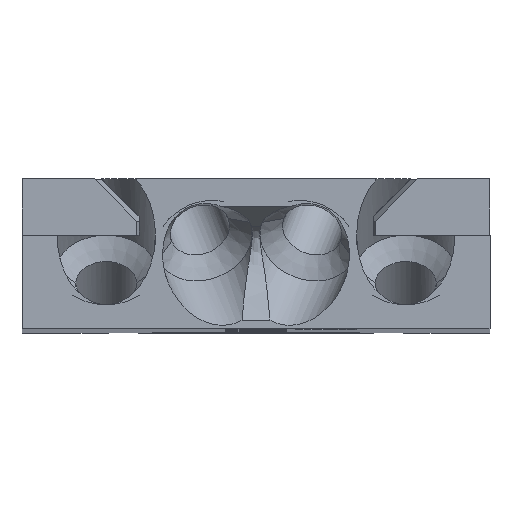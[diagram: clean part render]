
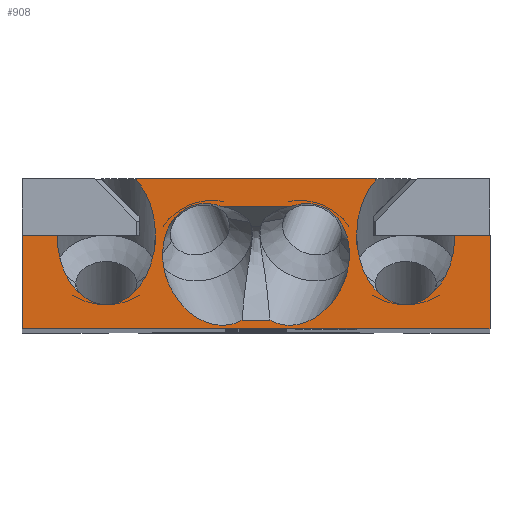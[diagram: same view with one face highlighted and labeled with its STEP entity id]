
A CAD part, top view. The second image highlights one B-rep face of the part: STEP entity #908.
In plain terms, the highlighted planar face has unit normal (0, 0, 1).
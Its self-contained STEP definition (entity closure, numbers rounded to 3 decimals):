
#908=ADVANCED_FACE('',(#1956,#1957),#1958,.T.);
#1956=FACE_OUTER_BOUND('',#3073,.T.);
#1957=FACE_BOUND('',#3074,.T.);
#1958=PLANE('',#3075);
#3073=EDGE_LOOP('',(#5756,#5757,#5758,#5759,#5760,#5761,#5762,#5763,#5764,#5765,#5766,#5767));
#3074=EDGE_LOOP('',(#5768,#5769,#5770,#5771,#5772,#5773));
#3075=AXIS2_PLACEMENT_3D('',#5774,#5775,#5776);
#5756=ORIENTED_EDGE('',*,*,#7435,.T.);
#5757=ORIENTED_EDGE('',*,*,#7179,.T.);
#5758=ORIENTED_EDGE('',*,*,#7025,.T.);
#5759=ORIENTED_EDGE('',*,*,#7408,.F.);
#5760=ORIENTED_EDGE('',*,*,#7384,.F.);
#5761=ORIENTED_EDGE('',*,*,#7371,.F.);
#5762=ORIENTED_EDGE('',*,*,#7402,.T.);
#5763=ORIENTED_EDGE('',*,*,#7418,.T.);
#5764=ORIENTED_EDGE('',*,*,#6936,.T.);
#5765=ORIENTED_EDGE('',*,*,#7182,.T.);
#5766=ORIENTED_EDGE('',*,*,#7436,.T.);
#5767=ORIENTED_EDGE('',*,*,#7437,.T.);
#5768=ORIENTED_EDGE('',*,*,#7438,.T.);
#5769=ORIENTED_EDGE('',*,*,#6931,.T.);
#5770=ORIENTED_EDGE('',*,*,#7439,.F.);
#5771=ORIENTED_EDGE('',*,*,#7440,.T.);
#5772=ORIENTED_EDGE('',*,*,#6925,.T.);
#5773=ORIENTED_EDGE('',*,*,#7441,.F.);
#5774=CARTESIAN_POINT('',(-25.0,0.,0.0));
#5775=DIRECTION('',(0.,0.,1.0));
#5776=DIRECTION('',(1.0,0.,0.));
#6925=EDGE_CURVE('',#8332,#8330,#8333,.T.);
#6931=EDGE_CURVE('',#8341,#8339,#8342,.T.);
#6936=EDGE_CURVE('',#8346,#8348,#8350,.T.);
#7025=EDGE_CURVE('',#8484,#8488,#8490,.T.);
#7179=EDGE_CURVE('',#8728,#8484,#8730,.T.);
#7182=EDGE_CURVE('',#8348,#8732,#8734,.T.);
#7371=EDGE_CURVE('',#9017,#8994,#9019,.T.);
#7384=EDGE_CURVE('',#8994,#9036,#9037,.T.);
#7402=EDGE_CURVE('',#9017,#9061,#9063,.T.);
#7408=EDGE_CURVE('',#9036,#8488,#9070,.T.);
#7418=EDGE_CURVE('',#9061,#8346,#9087,.T.);
#7435=EDGE_CURVE('',#9105,#8728,#9106,.T.);
#7436=EDGE_CURVE('',#8732,#9107,#9108,.T.);
#7437=EDGE_CURVE('',#9107,#9105,#9109,.T.);
#7438=EDGE_CURVE('',#9110,#8341,#9111,.T.);
#7439=EDGE_CURVE('',#9112,#8339,#9113,.T.);
#7440=EDGE_CURVE('',#9112,#8332,#9114,.T.);
#7441=EDGE_CURVE('',#9110,#8330,#9115,.T.);
#8330=VERTEX_POINT('',#10220);
#8332=VERTEX_POINT('',#10230);
#8333=ELLIPSE('',#10231,6.684,5.25);
#8339=VERTEX_POINT('',#10239);
#8341=VERTEX_POINT('',#10253);
#8342=ELLIPSE('',#10254,6.684,5.25);
#8346=VERTEX_POINT('',#10259);
#8348=VERTEX_POINT('',#10262);
#8350=ELLIPSE('',#10264,7.425,5.25);
#8484=VERTEX_POINT('',#10430);
#8488=VERTEX_POINT('',#10434);
#8490=ELLIPSE('',#10437,7.425,5.25);
#8728=VERTEX_POINT('',#10731);
#8730=ELLIPSE('',#10734,7.425,5.25);
#8732=VERTEX_POINT('',#10736);
#8734=ELLIPSE('',#10739,7.425,5.25);
#8994=VERTEX_POINT('',#11067);
#9017=VERTEX_POINT('',#11099);
#9019=LINE('',#11102,#11103);
#9036=VERTEX_POINT('',#11126);
#9037=LINE('',#11127,#11128);
#9061=VERTEX_POINT('',#11163);
#9063=LINE('',#11166,#11167);
#9070=LINE('',#11177,#11178);
#9087=LINE('',#11199,#11200);
#9105=VERTEX_POINT('',#11219);
#9106=ELLIPSE('',#11220,7.425,5.25);
#9107=VERTEX_POINT('',#11221);
#9108=ELLIPSE('',#11222,7.425,5.25);
#9109=LINE('',#11223,#11224);
#9110=VERTEX_POINT('',#11225);
#9111=ELLIPSE('',#11226,6.684,5.25);
#9112=VERTEX_POINT('',#11227);
#9113=B_SPLINE_CURVE_WITH_KNOTS('',3,(#11228,#11229,#11230,#11231),.UNSPECIFIED.,.F.,.F.,(4,4),(-0.282,0.479),.UNSPECIFIED.);
#9114=ELLIPSE('',#11232,6.684,5.25);
#9115=B_SPLINE_CURVE_WITH_KNOTS('',3,(#11233,#11234,#11235,#11236,#11237,#11238),.UNSPECIFIED.,.F.,.F.,(4,2,4),(0.0,0.149,0.297),.UNSPECIFIED.);
#10220=CARTESIAN_POINT('',(1.485,0.922,0.0));
#10230=CARTESIAN_POINT('',(9.365,4.898,0.));
#10231=AXIS2_PLACEMENT_3D('',#12185,#12186,#12187);
#10239=CARTESIAN_POINT('',(-3.805,13.09,0.0));
#10253=CARTESIAN_POINT('',(-9.365,4.898,0.));
#10254=AXIS2_PLACEMENT_3D('',#12193,#12194,#12195);
#10259=CARTESIAN_POINT('',(21.25,10.0,0.));
#10262=CARTESIAN_POINT('',(16.0,2.575,0.));
#10264=AXIS2_PLACEMENT_3D('',#12201,#12202,#12203);
#10430=CARTESIAN_POINT('',(-16.0,2.575,0.0));
#10434=CARTESIAN_POINT('',(-21.25,10.,0.0));
#10437=AXIS2_PLACEMENT_3D('',#12339,#12340,#12341);
#10731=CARTESIAN_POINT('',(-10.75,10.0,0.));
#10734=AXIS2_PLACEMENT_3D('',#12576,#12577,#12578);
#10736=CARTESIAN_POINT('',(10.75,10.0,0.));
#10739=AXIS2_PLACEMENT_3D('',#12580,#12581,#12582);
#11067=CARTESIAN_POINT('',(-25.0,0.,0.0));
#11099=CARTESIAN_POINT('',(25.0,0.,0.));
#11102=CARTESIAN_POINT('',(25.0,0.,0.));
#11103=VECTOR('',#12871,10.0);
#11126=CARTESIAN_POINT('',(-25.0,10.,0.0));
#11127=CARTESIAN_POINT('',(-25.0,0.,0.0));
#11128=VECTOR('',#12881,10.0);
#11163=CARTESIAN_POINT('',(25.0,10.0,0.));
#11166=CARTESIAN_POINT('',(25.0,0.,0.));
#11167=VECTOR('',#12894,10.0);
#11177=CARTESIAN_POINT('',(-12.5,10.,0.0));
#11178=VECTOR('',#12898,10.0);
#11199=CARTESIAN_POINT('',(-12.5,10.,0.0));
#11200=VECTOR('',#12918,10.0);
#11219=CARTESIAN_POINT('',(-12.908,16.0,0.0));
#11220=AXIS2_PLACEMENT_3D('',#12962,#12963,#12964);
#11221=CARTESIAN_POINT('',(12.908,16.0,0.));
#11222=AXIS2_PLACEMENT_3D('',#12965,#12966,#12967);
#11223=CARTESIAN_POINT('',(-15.293,16.0,0.));
#11224=VECTOR('',#12968,10.0);
#11225=CARTESIAN_POINT('',(-1.485,0.922,0.0));
#11226=AXIS2_PLACEMENT_3D('',#12969,#12970,#12971);
#11227=CARTESIAN_POINT('',(3.805,13.09,0.));
#11228=CARTESIAN_POINT('',(3.805,13.09,0.));
#11229=CARTESIAN_POINT('',(1.268,13.09,0.0));
#11230=CARTESIAN_POINT('',(-1.268,13.09,0.0));
#11231=CARTESIAN_POINT('',(-3.805,13.09,0.0));
#11232=AXIS2_PLACEMENT_3D('',#12972,#12973,#12974);
#11233=CARTESIAN_POINT('',(-1.485,0.922,0.0));
#11234=CARTESIAN_POINT('',(-0.99,0.922,0.0));
#11235=CARTESIAN_POINT('',(-0.495,0.922,0.));
#11236=CARTESIAN_POINT('',(0.495,0.922,0.));
#11237=CARTESIAN_POINT('',(0.99,0.922,0.0));
#11238=CARTESIAN_POINT('',(1.485,0.922,0.0));
#12185=CARTESIAN_POINT('',(4.5,6.871,0.));
#12186=DIRECTION('',(0.,0.,-1.0));
#12187=DIRECTION('',(0.376,0.927,0.));
#12193=CARTESIAN_POINT('',(-4.5,6.871,0.0));
#12194=DIRECTION('',(0.,0.,-1.0));
#12195=DIRECTION('',(-0.376,0.927,0.));
#12201=CARTESIAN_POINT('',(16.0,10.0,0.));
#12202=DIRECTION('',(0.,0.,-1.0));
#12203=DIRECTION('',(0.,-1.0,0.));
#12339=CARTESIAN_POINT('',(-16.0,10.0,0.0));
#12340=DIRECTION('',(0.,0.,-1.0));
#12341=DIRECTION('',(0.,-1.0,0.));
#12576=CARTESIAN_POINT('',(-16.0,10.0,0.0));
#12577=DIRECTION('',(0.,0.,-1.0));
#12578=DIRECTION('',(0.,-1.0,0.));
#12580=CARTESIAN_POINT('',(16.0,10.0,0.));
#12581=DIRECTION('',(0.,0.,-1.0));
#12582=DIRECTION('',(0.,-1.0,0.));
#12871=DIRECTION('',(-1.0,0.,0.));
#12881=DIRECTION('',(0.,1.0,0.));
#12894=DIRECTION('',(0.,1.0,0.));
#12898=DIRECTION('',(1.0,0.,0.));
#12918=DIRECTION('',(-1.0,0.,0.));
#12962=CARTESIAN_POINT('',(-16.0,10.0,0.0));
#12963=DIRECTION('',(0.,0.,-1.0));
#12964=DIRECTION('',(0.,-1.0,0.));
#12965=CARTESIAN_POINT('',(16.0,10.0,0.));
#12966=DIRECTION('',(0.,0.,-1.0));
#12967=DIRECTION('',(0.,-1.0,0.));
#12968=DIRECTION('',(-1.0,0.,0.));
#12969=CARTESIAN_POINT('',(-4.5,6.871,0.0));
#12970=DIRECTION('',(0.,0.,-1.0));
#12971=DIRECTION('',(-0.376,0.927,0.));
#12972=CARTESIAN_POINT('',(4.5,6.871,0.));
#12973=DIRECTION('',(0.,0.,-1.0));
#12974=DIRECTION('',(0.376,0.927,0.));
